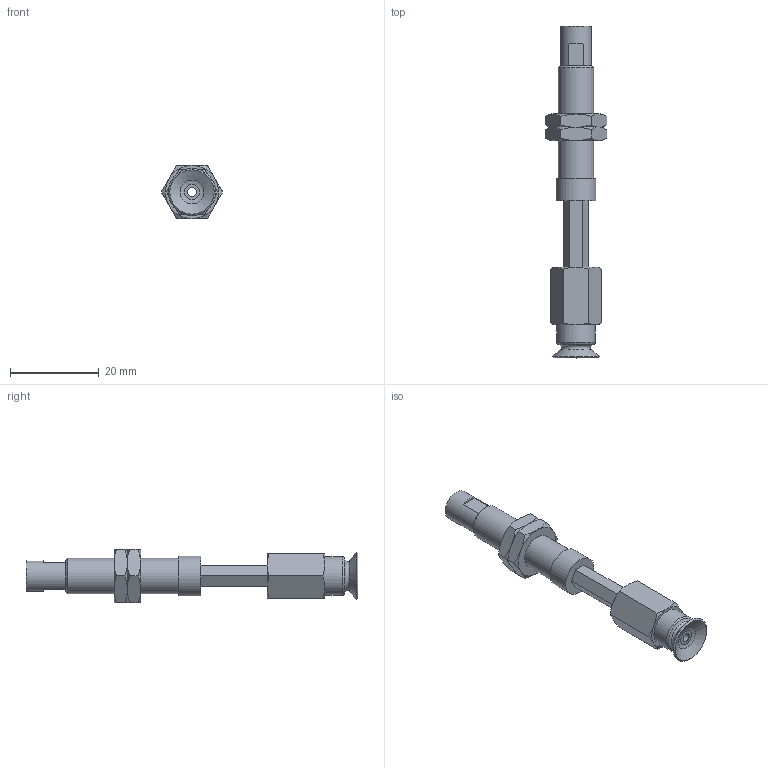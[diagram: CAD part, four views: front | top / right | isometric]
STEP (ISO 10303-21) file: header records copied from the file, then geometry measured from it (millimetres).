
FILE_DESCRIPTION(('STEP AP203'),'1');
FILE_NAME('.stp','2025-08-27T03:10:18',(' '),(' '),'Spatial InterOp 3D',' ',' ');
FILE_SCHEMA(('CONFIG_CONTROL_DESIGN'));
Length unit declared in the file: millimetre
Products named in the file (6): BNABPFTH-10A-15-※; ADAPTER; NAPATH-10A-15--M; Nut-10A-15-h; NAPFTH-10A-15-FBODY; BPFG-10A-※
Assembly tree (6 placements, depth 2):
  BNABPFTH-10A-15-※
    ADAPTER
    NAPATH-10A-15--M
    Nut-10A-15-h  x2
    NAPFTH-10A-15-FBODY
    BPFG-10A-※
Bounding box: 13.86 x 75 x 12 mm (x, y, z)
Volume: 3928.3 mm3; surface area: 4712 mm2
Topology: 6 solids, 6 shells, 123 faces, 264 edges, 161 vertices
Faces by surface type: plane 54, cone 46, cylinder 14, torus 8, bspline 1
Full cylindrical faces by diameter (mm): 2 x3, 4 x2, 4.134 x1, 6 x2, 7 x1, 7.188 x2, 8 x1, 8.7 x1, 9 x1
Entity records: 3003 total; most frequent: CARTESIAN_POINT 724, DIRECTION 412, ORIENTED_EDGE 354, AXIS2_PLACEMENT_3D 177, EDGE_CURVE 177, EDGE_LOOP 148, VERTEX_POINT 125, FACE_OUTER_BOUND 122
